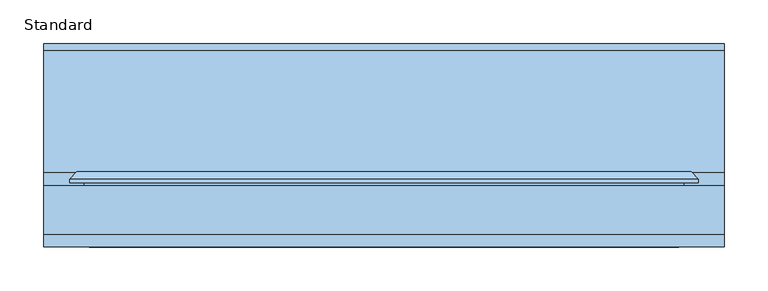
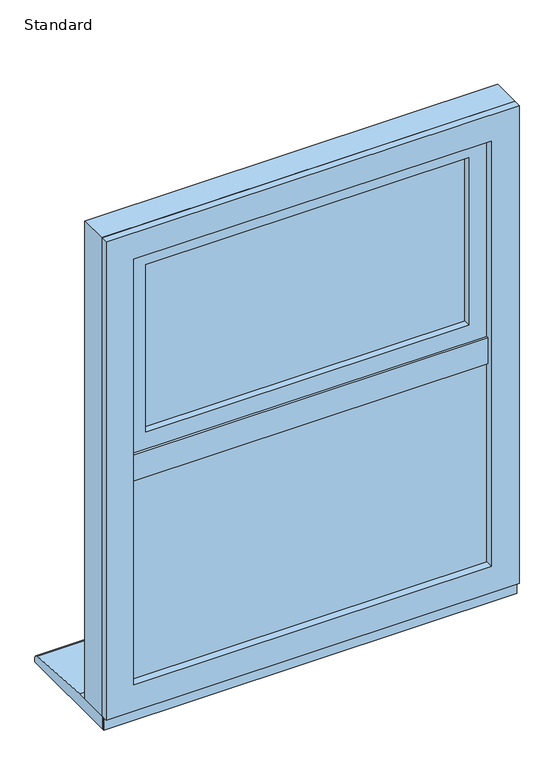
"""IFC4 building model written with IfcOpenShell, lengths in millimetres: window geometry, SMARTS_Alitherm600 : Standard."""

import ifcopenshell
import ifcopenshell.guid

model = None  # the IFC model being written
_history = None  # IfcOwnerHistory: only IFC2X3 demands one
_inside = {}  # id of a spatial element -> (the spatial element, [elements in it])
_under = {}  # id of a project, library or spatial element -> (it, [spatial elements below it])
_declared = {}  # id of a project -> (the project, [libraries it declares])
_typed = {}  # id of a type object -> (the type object, [elements of that type])
_made_of = {}  # id of a material, layer set ... -> (it, [elements and type objects made of it])


def new_model(schema):
    """Start an empty IFC model of exactly this schema.

    Asked for "IFC4X3", IfcOpenShell would pick the latest addendum, in which some entities
    have other attributes; the version numbers below select the first issue.
    IFC2X3 requires an IfcOwnerHistory on every rooted entity: one is made here for all.
    """
    global model, _history
    if schema == "IFC4X3":
        model = ifcopenshell.file(schema_version=(4, 3, 0, 0))
    else:
        model = ifcopenshell.file(schema=schema)
    _inside.clear()
    _under.clear()
    _declared.clear()
    _typed.clear()
    _made_of.clear()
    _history = None
    if model.schema == "IFC2X3":
        org = make("IfcOrganization", Name="unknown")
        user = make(
            "IfcPersonAndOrganization",
            ThePerson=make("IfcPerson", FamilyName="unknown"),
            TheOrganization=org,
        )
        app = make(
            "IfcApplication",
            ApplicationDeveloper=org,
            Version="unknown",
            ApplicationFullName="unknown",
            ApplicationIdentifier="unknown",
        )
        _history = make(
            "IfcOwnerHistory",
            OwningUser=user,
            OwningApplication=app,
            ChangeAction="ADDED",
            CreationDate=0,
        )
    return model


def make(cls, **values):
    """One entity of the class cls with the attributes given. An attribute that is None is left unset."""
    return model.create_entity(
        cls, **{name: value for name, value in values.items() if value is not None}
    )


def rooted(cls, **values):
    """An entity with a GlobalId (a new one), such as an element, a storey or a relation."""
    return make(cls, GlobalId=ifcopenshell.guid.new(), OwnerHistory=_history, **values)


def si_unit(unit_type, name, prefix=None):
    """IfcSIUnit, for example si_unit("LENGTHUNIT", "METRE", prefix="MILLI")."""
    return make("IfcSIUnit", UnitType=unit_type, Prefix=prefix, Name=name)


def assignment(units):
    """IfcUnitAssignment: the units of a project."""
    return None if units is None else make("IfcUnitAssignment", Units=units)


def point(xyz):
    """IfcCartesianPoint."""
    return None if xyz is None else make("IfcCartesianPoint", Coordinates=xyz)


def direction(xyz):
    """IfcDirection."""
    return None if xyz is None else make("IfcDirection", DirectionRatios=xyz)


def frame(location, z_axis=None, x_axis=None):
    """IfcAxis2Placement3D, a coordinate frame: its origin and axes. An axis left out is left unset."""
    return make(
        "IfcAxis2Placement3D",
        Location=point(location),
        Axis=direction(z_axis),
        RefDirection=direction(x_axis),
    )


def frame_2d(location, x_axis=None):
    """IfcAxis2Placement2D, a coordinate frame in the plane: its origin and x axis."""
    return make(
        "IfcAxis2Placement2D", Location=point(location), RefDirection=direction(x_axis)
    )


def origin():
    """The frame at (0, 0, 0) with its axes left unset."""
    return frame((0.0, 0.0, 0.0))


def place(relative_to, where):
    """IfcLocalPlacement: puts the frame where relative to a parent placement (None: the world)."""
    return make(
        "IfcLocalPlacement", PlacementRelTo=relative_to, RelativePlacement=where
    )


def context(
    kind, dimensions, precision=None, world=None, true_north=None, identifier=None
):
    """IfcGeometricRepresentationContext, for example the 3D "Model" context."""
    return make(
        "IfcGeometricRepresentationContext",
        ContextIdentifier=identifier,
        ContextType=kind,
        CoordinateSpaceDimension=dimensions,
        Precision=precision,
        WorldCoordinateSystem=world,
        TrueNorth=true_north,
    )


def project(units=None, contexts=None):
    """IfcProject with its units and contexts."""
    return rooted(
        "IfcProject",
        Name="project",
        RepresentationContexts=contexts,
        UnitsInContext=assignment(units),
    )


def spatial(cls, under=None, at=None, **own):
    """A site, building, storey or space (cls), placed at a placement, below another one or the project."""
    s = rooted(cls, ObjectPlacement=at, **own)
    if under is not None:
        _under.setdefault(under.id(), (under, []))[1].append(s)
    return s


def polyline(points):
    """IfcPolyline through the points."""
    return make("IfcPolyline", Points=[point(p) for p in points])


def circle_curve(where, radius):
    """IfcCircle in the frame where."""
    return make("IfcCircle", Position=where, Radius=radius)


def trimmed(basis, trim1, trim2, sense, master):
    """IfcTrimmedCurve: the piece of a basis curve between two trims."""
    return make(
        "IfcTrimmedCurve",
        BasisCurve=basis,
        Trim1=trim1,
        Trim2=trim2,
        SenseAgreement=sense,
        MasterRepresentation=master,
    )


def segment(curve, same_sense, transition):
    """IfcCompositeCurveSegment."""
    return make(
        "IfcCompositeCurveSegment",
        Transition=transition,
        SameSense=same_sense,
        ParentCurve=curve,
    )


def composite_curve(segments, self_intersect=None):
    """IfcCompositeCurve: segments joined end to end."""
    return make("IfcCompositeCurve", Segments=segments, SelfIntersect=self_intersect)


def outline(outer, holes=None, kind="AREA"):
    """IfcArbitraryClosedProfileDef: a profile drawn as a closed curve; with holes, ...WithVoids."""
    if holes is None:
        return make("IfcArbitraryClosedProfileDef", ProfileType=kind, OuterCurve=outer)
    return make(
        "IfcArbitraryProfileDefWithVoids",
        ProfileType=kind,
        OuterCurve=outer,
        InnerCurves=holes,
    )


def extrude(swept, where, along, depth):
    """IfcExtrudedAreaSolid: the profile swept, set in the frame where, extruded along a direction by depth."""
    return make(
        "IfcExtrudedAreaSolid",
        SweptArea=swept,
        Position=where,
        ExtrudedDirection=direction(along),
        Depth=depth,
    )


def faces_of(points, faces, orient=None, outer=None):
    """IfcFace entities. A face is a list of loops; a loop is a list of indices into points, from 0.

    orient and outer hold one flag for each loop. By default every Orientation is true, the
    first loop of a face is its IfcFaceOuterBound and the others are IfcFaceBound.
    """
    made = []
    for i, loops in enumerate(faces):
        bounds = []
        for j, loop in enumerate(loops):
            is_outer = j == 0 if outer is None else outer[i][j]
            bounds.append(
                make(
                    "IfcFaceOuterBound" if is_outer else "IfcFaceBound",
                    Bound=make("IfcPolyLoop", Polygon=[points[k] for k in loop]),
                    Orientation=True if orient is None else orient[i][j],
                )
            )
        made.append(make("IfcFace", Bounds=bounds))
    return made


def faceted_brep(points, faces, orient=None, outer=None, voids=None):
    """IfcFacetedBrep: a solid bounded by flat faces; with voids (closed shells), ...WithVoids."""
    shared = [point(p) for p in points]
    hull = make("IfcClosedShell", CfsFaces=faces_of(shared, faces, orient, outer))
    if voids is None:
        return make("IfcFacetedBrep", Outer=hull)
    return make(
        "IfcFacetedBrepWithVoids",
        Outer=hull,
        Voids=[
            make(cls, CfsFaces=faces_of(shared, fs, o, b)) for cls, fs, o, b in voids
        ],
    )


def shape(context_of_items, identifier, shape_type, items):
    """IfcShapeRepresentation: the items that make up one representation, for example the "Body"."""
    return make(
        "IfcShapeRepresentation",
        ContextOfItems=context_of_items,
        RepresentationIdentifier=identifier,
        RepresentationType=shape_type,
        Items=items,
    )


def source(mapping_origin, context_of_items, identifier, shape_type, items):
    """IfcRepresentationMap: a shape defined once, which mapped items show again and again."""
    return make(
        "IfcRepresentationMap",
        MappingOrigin=mapping_origin,
        MappedRepresentation=shape(context_of_items, identifier, shape_type, items),
    )


def transform(
    local_origin,
    x_axis=None,
    y_axis=None,
    z_axis=None,
    scale=None,
    scale2=None,
    scale3=None,
    uniform=True,
):
    """IfcCartesianTransformationOperator3D, or its non-uniform kind. x_axis, y_axis, z_axis: its Axis1, 2, 3."""
    if uniform:
        return make(
            "IfcCartesianTransformationOperator3D",
            Axis1=direction(x_axis),
            Axis2=direction(y_axis),
            LocalOrigin=point(local_origin),
            Scale=scale,
            Axis3=direction(z_axis),
        )
    return make(
        "IfcCartesianTransformationOperator3DnonUniform",
        Axis1=direction(x_axis),
        Axis2=direction(y_axis),
        LocalOrigin=point(local_origin),
        Scale=scale,
        Axis3=direction(z_axis),
        Scale2=scale2,
        Scale3=scale3,
    )


def mapped(mapping_source, mapping_target):
    """IfcMappedItem: shows the shape of a source again, moved by a transform."""
    return make(
        "IfcMappedItem", MappingSource=mapping_source, MappingTarget=mapping_target
    )


def made_of(thing, what):
    """Note that an element or type object is made of a material, layer set ...; save() writes the relation."""
    if what is not None:
        _made_of.setdefault(what.id(), (what, []))[1].append(thing)
    return thing


def element(
    cls,
    number,
    at=None,
    inside=None,
    cuts=None,
    type_object=None,
    material=None,
    context=None,
    identifier="Body",
    shape_type=None,
    held_by="IfcProductDefinitionShape",
    body=None,
    shapes=None,
    **own,
):
    """One element of the class cls, such as IfcWall. Its Tag is "e" and its number.

    at: its placement. inside: the storey or other place that contains it. cuts: it is an
    opening in that element (IfcRelVoidsElement). A single representation is given by context,
    identifier, shape_type and body (its items); several are given by shapes. held_by: the class
    of the entity that holds the representations. save() writes the other relations.
    """
    e = rooted(cls, Tag="e%d" % number, ObjectPlacement=at, **own)
    if body is not None:
        shapes = [shape(context, identifier, shape_type, body)]
    if shapes is not None:
        e.Representation = make(held_by, Representations=shapes)
    if inside is not None:
        _inside.setdefault(inside.id(), (inside, []))[1].append(e)
    if cuts is not None:
        rooted(
            "IfcRelVoidsElement", RelatingBuildingElement=cuts, RelatedOpeningElement=e
        )
    if type_object is not None:
        _typed.setdefault(type_object.id(), (type_object, []))[1].append(e)
    return made_of(e, material)


def aggregate(whole, parts):
    """IfcRelAggregates: a whole, such as a stair, and the parts it consists of."""
    return rooted("IfcRelAggregates", RelatingObject=whole, RelatedObjects=parts)


def save(model, path):
    """Write the relations noted so far, then the file.

    IfcRelAggregates (storeys below a building ...), IfcRelContainedInSpatialStructure (elements
    in a storey), IfcRelDefinesByType, IfcRelAssociatesMaterial and IfcRelDeclares: one each for
    every whole, place, type object, material and project.
    """
    for whole, parts in _under.values():
        aggregate(whole, parts)
    for where, things in _inside.values():
        rooted(
            "IfcRelContainedInSpatialStructure",
            RelatedElements=things,
            RelatingStructure=where,
        )
    for kind, things in _typed.values():
        rooted("IfcRelDefinesByType", RelatedObjects=things, RelatingType=kind)
    for what, things in _made_of.values():
        rooted("IfcRelAssociatesMaterial", RelatedObjects=things, RelatingMaterial=what)
    for by, libraries in _declared.values():
        rooted("IfcRelDeclares", RelatingContext=by, RelatedDefinitions=libraries)
    model.write(path)


def standard_0e25eb84(model_context):
    return source(origin(), model_context, "Body", "SolidModel", [
        extrude(outline(polyline([(354.1020883, 102.8298432), (354.1020883, 47.2458572), (-354.1020883, 47.2458572), (-354.1020883, 102.8298432), (354.1020883, 102.8298432)])), frame((0.0, 0.0, 1103.1), z_axis=(0.0, 0.0, 1.0), x_axis=(1.0, 0.0, 0.0)), (0.0, 0.0, 1.0), 18.8),
        extrude(outline(polyline([(337.6, 47.2458572), (337.6, 43.2798432), (-337.6, 43.2798432), (-337.6, 47.2458572), (337.6, 47.2458572)])), frame((0.0, 0.0, 1086.5979117), z_axis=(0.0, 0.0, 1.0), x_axis=(1.0, 0.0, 0.0)), (0.0, 0.0, 1.0), 51.8041766),
        extrude(outline(polyline([(-352.6, 77.7798432), (352.6, 77.7798432), (352.6, 73.7798432), (-352.6, 73.7798432), (-352.6, 77.7798432)])), frame((0.0, 0.0, 672.4), z_axis=(0.0, 0.0, 1.0), x_axis=(1.0, 0.0, 0.0)), (0.0, 0.0, 1.0), 429.1),
        extrude(outline(polyline([(-352.6, 57.7798432), (352.6, 57.7798432), (352.6, 53.7798432), (-352.6, 53.7798432), (-352.6, 57.7798432)])), frame((0.0, 0.0, 672.4), z_axis=(0.0, 0.0, 1.0), x_axis=(1.0, 0.0, 0.0)), (0.0, 0.0, 1.0), 429.1),
        extrude(outline(polyline([(1101.5, -352.6), (672.4, -352.6), (672.4, 352.6), (1101.5, 352.6), (1101.5, -352.6)]), holes=[polyline([(1091.5, 342.6), (682.4, 342.6), (682.4, -342.6), (1091.5, -342.6), (1091.5, 342.6)])]), frame((0.0, 57.7798432, 0.0), z_axis=(0.0, 1.0, 0.0), x_axis=(0.0, 0.0, 1.0)), (0.0, 0.0, 1.0), 16.0),
        faceted_brep([(-349.4160653, 102.7798432, 1098.3160653), (-337.2339746, 81.6798432, 1086.1339746), (-337.2339746, 81.6798432, 687.7660254), (-349.4160653, 102.7798432, 675.5839347), (337.2339746, 81.6798432, 687.7660254), (349.4160653, 102.7798432, 675.5839347), (337.2339746, 81.6798432, 1086.1339746), (349.4160653, 102.7798432, 1098.3160653), (354.1, 81.6798432, 1103.0), (354.1, 102.7798432, 1103.0), (-354.1, 102.7798432, 1103.0), (-354.1, 81.6798432, 1103.0), (-354.1, 102.7798432, 670.9), (-354.1, 81.6798432, 670.9), (354.1, 102.7798432, 670.9), (354.1, 81.6798432, 670.9)], [[[0, 1, 2, 3]], [[3, 2, 4, 5]], [[5, 4, 6, 7]], [[7, 6, 1, 0]], [[8, 9, 10, 11]], [[11, 10, 12, 13]], [[13, 12, 14, 15]], [[9, 14, 12, 10], [0, 3, 5, 7]], [[15, 14, 9, 8]], [[11, 13, 15, 8], [6, 4, 2, 1]]]),
        extrude(outline(polyline([(1590.0, 390.0), (1590.0, -390.0), (635.0, -390.0), (635.0, 390.0), (1590.0, 390.0)]), holes=[polyline([(670.85, 354.15), (670.85, -354.15), (1554.15, -354.15), (1554.15, 354.15), (670.85, 354.15)])]), frame((0.0, 47.2798427, 0.0), z_axis=(0.0, 1.0, 0.0), x_axis=(0.0, 0.0, 1.0)), (0.0, 0.0, 1.0), 55.5500006),
        extrude(outline(polyline([(1590.0, 390.0), (1590.0, -390.0), (635.0, -390.0), (635.0, 390.0), (1590.0, 390.0)]), holes=[polyline([(687.35, 337.65), (687.35, -337.65), (1537.65, -337.65), (1537.65, 337.65), (687.35, 337.65)])]), frame((0.0, 32.8298432, 0.0), z_axis=(0.0, 1.0, 0.0), x_axis=(0.0, 0.0, 1.0)), (0.0, 0.0, 1.0), 14.4499994),
        extrude(outline(polyline([(1516.6, -316.6), (1159.5, -316.6), (1159.5, 316.6), (1516.6, 316.6), (1516.6, -316.6)]), holes=[polyline([(1506.6, 306.6), (1169.5, 306.6), (1169.5, -306.6), (1506.6, -306.6), (1506.6, 306.6)])]), frame((0.0, 72.3211351, 0.0), z_axis=(0.0, 1.0, 0.0), x_axis=(0.0, 0.0, 1.0)), (0.0, 0.0, 1.0), 16.0),
        extrude(outline(polyline([(-316.6, 92.3211351), (316.6, 92.3211351), (316.6, 88.3211351), (-316.6, 88.3211351), (-316.6, 92.3211351)])), frame((0.0, 0.0, 1159.5), z_axis=(0.0, 0.0, 1.0), x_axis=(1.0, 0.0, 0.0)), (0.0, 0.0, 1.0), 357.1),
        extrude(outline(polyline([(-316.6, 72.3211351), (316.6, 72.3211351), (316.6, 68.3211351), (-316.6, 68.3211351), (-316.6, 72.3211351)])), frame((0.0, 0.0, 1159.5), z_axis=(0.0, 0.0, 1.0), x_axis=(1.0, 0.0, 0.0)), (0.0, 0.0, 1.0), 357.1),
        faceted_brep([(316.9221147, 118.8818325, 1516.9221147), (304.740024, 97.7818325, 1504.740024), (-304.740024, 97.7818325, 1504.740024), (-316.9221147, 118.8818325, 1516.9221147), (321.6060494, 97.7818325, 1521.6060494), (321.6060494, 118.8818325, 1521.6060494), (-321.6060494, 118.8818325, 1521.6060494), (-321.6060494, 97.7818325, 1521.6060494), (-304.740024, 97.7818325, 1171.359976), (-316.9221147, 118.8818325, 1159.1778853), (-321.6060494, 118.8818325, 1154.4939506), (-321.6060494, 97.7818325, 1154.4939506), (304.740024, 97.7818325, 1171.359976), (316.9221147, 118.8818325, 1159.1778853), (321.6060494, 118.8818325, 1154.4939506), (321.6060494, 97.7818325, 1154.4939506)], [[[0, 1, 2, 3]], [[4, 5, 6, 7]], [[3, 2, 8, 9]], [[7, 6, 10, 11]], [[9, 8, 12, 13]], [[11, 10, 14, 15]], [[13, 12, 1, 0]], [[5, 14, 10, 6], [3, 9, 13, 0]], [[15, 14, 5, 4]], [[7, 11, 15, 4], [1, 12, 8, 2]]]),
        extrude(outline(polyline([(1132.652908, -343.447092), (1132.652908, 343.447092), (1543.447092, 343.447092), (1543.447092, -343.447092), (1132.652908, -343.447092)]), holes=[polyline([(1505.1, -305.1), (1505.1, 305.1), (1171.0, 305.1), (1171.0, -305.1), (1505.1, -305.1)])]), frame((0.0, 50.2798432, 0.0), z_axis=(0.0, 1.0, 0.0), x_axis=(0.0, 0.0, 1.0)), (0.0, 0.0, 1.0), 13.0853156),
        faceted_brep([(-321.6060494, 118.8818325, 1521.6060494), (-321.6060494, 63.3651588, 1521.6060494), (-321.6060494, 63.3651588, 1154.4939506), (-321.6060494, 118.8818325, 1154.4939506), (321.6060494, 63.3651588, 1154.4939506), (321.6060494, 118.8818325, 1154.4939506), (321.6060494, 63.3651588, 1521.6060494), (321.6060494, 118.8818325, 1521.6060494), (-360.3358988, 106.2818325, 1560.3358988), (-360.3358988, 110.3519831, 1560.3358988), (-360.3358988, 110.3519831, 1115.7641012), (-360.3358988, 106.2818325, 1115.7641012), (360.3358988, 110.3519831, 1115.7641012), (360.3358988, 106.2818325, 1115.7641012), (360.3358988, 110.3519831, 1560.3358988), (360.3358988, 106.2818325, 1560.3358988), (-343.7467657, 106.2818325, 1543.7467657), (343.7467657, 106.2818325, 1543.7467657), (343.7467657, 106.2818325, 1132.3532343), (-343.7467657, 106.2818325, 1132.3532343), (-351.8060494, 118.8818325, 1551.8060494), (351.8060494, 118.8818325, 1551.8060494), (351.8060494, 118.8818325, 1124.2939506), (-351.8060494, 118.8818325, 1124.2939506), (-343.7467657, 63.3651588, 1543.7467657), (-343.7467657, 63.3651588, 1132.3532343), (343.7467657, 63.3651588, 1132.3532343), (343.7467657, 63.3651588, 1543.7467657)], [[[0, 1, 2, 3]], [[3, 2, 4, 5]], [[5, 4, 6, 7]], [[7, 6, 1, 0]], [[8, 9, 10, 11]], [[11, 10, 12, 13]], [[13, 12, 14, 15]], [[11, 13, 15, 8], [16, 17, 18, 19]], [[15, 14, 9, 8]], [[20, 21, 22, 23], [3, 5, 7, 0]], [[24, 16, 19, 25]], [[25, 19, 18, 26]], [[26, 18, 17, 27]], [[25, 26, 27, 24], [1, 6, 4, 2]], [[27, 17, 16, 24]], [[9, 20, 23, 10]], [[10, 23, 22, 12]], [[12, 22, 21, 14]], [[14, 21, 20, 9]]]),
        extrude(outline(polyline([(390.0, 43.2798432), (390.0, 40.7798432), (-390.0, 40.7798432), (-390.0, 43.2798432), (390.0, 43.2798432)])), frame((0.0, 0.0, 610.0), z_axis=(0.0, 0.0, 1.0), x_axis=(1.0, 0.0, 0.0)), (0.0, 0.0, 1.0), 31.0),
        extrude(outline(composite_curve([segment(polyline([(265.7798432, 610.0), (43.2798432, 610.0), (43.2798432, 635.0), (118.7798432, 635.0), (258.4770891, 625.9276664)]), True, "CONTINUOUS"), segment(trimmed(circle_curve(frame_2d((257.7798432, 617.9581088)), 8.0), [point((258.4770891, 625.9276664))], [point((265.7798432, 617.9581088))], False, "CARTESIAN"), True, "CONTINUOUS"), segment(polyline([(265.7798432, 617.9581088), (265.7798432, 610.0)]), True, "CONTINUOUS")], self_intersect=False)), frame((-390.0, 0.0, 0.0), z_axis=(1.0, 0.0, 0.0), x_axis=(0.0, 1.0, 0.0)), (0.0, 0.0, 1.0), 780.0),
    ])


if __name__ == "__main__":
    model = new_model("IFC4")
    model_context = context("Model", 3, world=origin())
    ifc_project = project(units=[si_unit("LENGTHUNIT", "METRE", prefix="MILLI")], contexts=[model_context])
    site = spatial("IfcSite", under=ifc_project)
    building = spatial("IfcBuilding", under=site)
    placement = place(None, origin())
    standard_shape = standard_0e25eb84(model_context)
    element("IfcWindow", 1, ObjectType="SMARTS_Alitherm600 : Standard", at=placement, inside=building, context=model_context, shape_type="MappedRepresentation", body=[
        mapped(standard_shape, transform((0.0, 0.0, 0.0), x_axis=(1.0, 0.0, 0.0), y_axis=(0.0, 1.0, 0.0), z_axis=(0.0, 0.0, 1.0))),
    ])
    save(model, "model.ifc")
